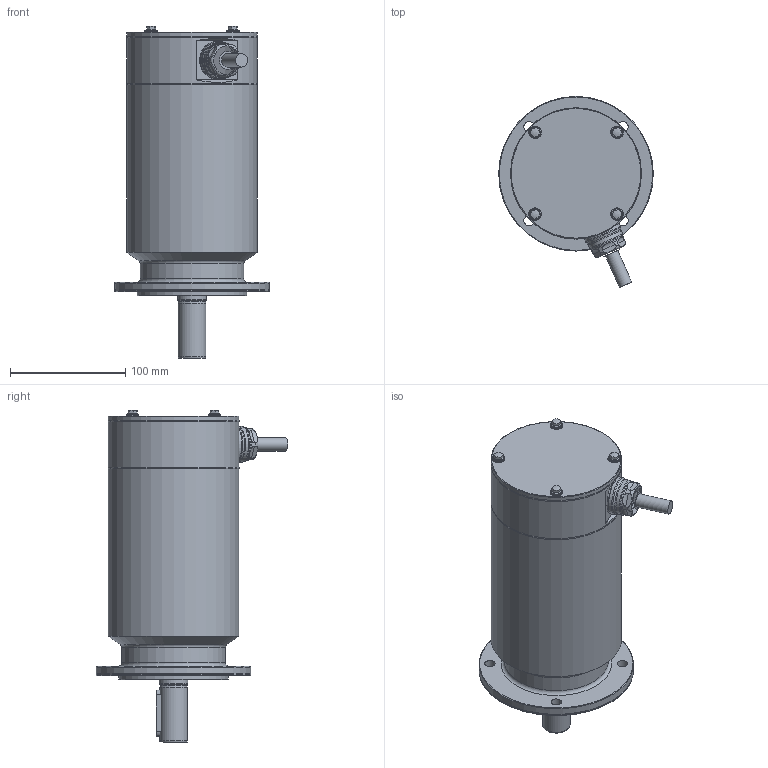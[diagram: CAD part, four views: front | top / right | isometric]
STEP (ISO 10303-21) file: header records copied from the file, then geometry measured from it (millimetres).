
FILE_DESCRIPTION(/* description */ (''),/* implementation_level */ '2;1');
FILE_NAME(/* name */ 'C:\Users\MartinMue\Desktop\_Temp\AM8752-xx11-xxxx.stp',/* time_stamp */ '2020-03-04T14:08:57+01:00',/* author */ ('MartinMue'),/* organization */ ('FERTIG Motors'),/* preprocessor_version */ 'ST-DEVELOPER v18',/* originating_system */ 'Autodesk Inventor 2020',/* authorisation */ '');
FILE_SCHEMA (('AUTOMOTIVE_DESIGN { 1 0 10303 214 3 1 1 }'));
Length unit declared in the file: millimetre
Products named in the file (3): DM100x_VM; DM100x_VM_1; DIN 6885-A8x7x40
Assembly tree (2 placements, depth 2):
  DM100x_VM
    DM100x_VM_1
    DIN 6885-A8x7x40
Bounding box: 134 x 166.01 x 287.76 mm (x, y, z)
Volume: 2287242.7 mm3; surface area: 123277.2 mm2
Topology: 2 solids, 2 shells, 210 faces, 600 edges, 410 vertices
Faces by surface type: cylinder 91, plane 74, torus 24, cone 17, sphere 4
Full cylindrical faces by diameter (mm): 6.917 x1, 8.4 x1, 9 x4, 10.7 x4, 10.9 x4, 11.6 x1, 23.4 x1, 24 x1, 25 x1, 31 x1, 32.9 x1, 32.95 x1, 90 x1, 95 x1, 99.2 x1, 113.4 x3, 134 x2
Entity records: 8397 total; most frequent: CARTESIAN_POINT 2395, DIRECTION 1218, ORIENTED_EDGE 1198, EDGE_CURVE 599, AXIS2_PLACEMENT_3D 523, VERTEX_POINT 410, CIRCLE 305, EDGE_LOOP 235
